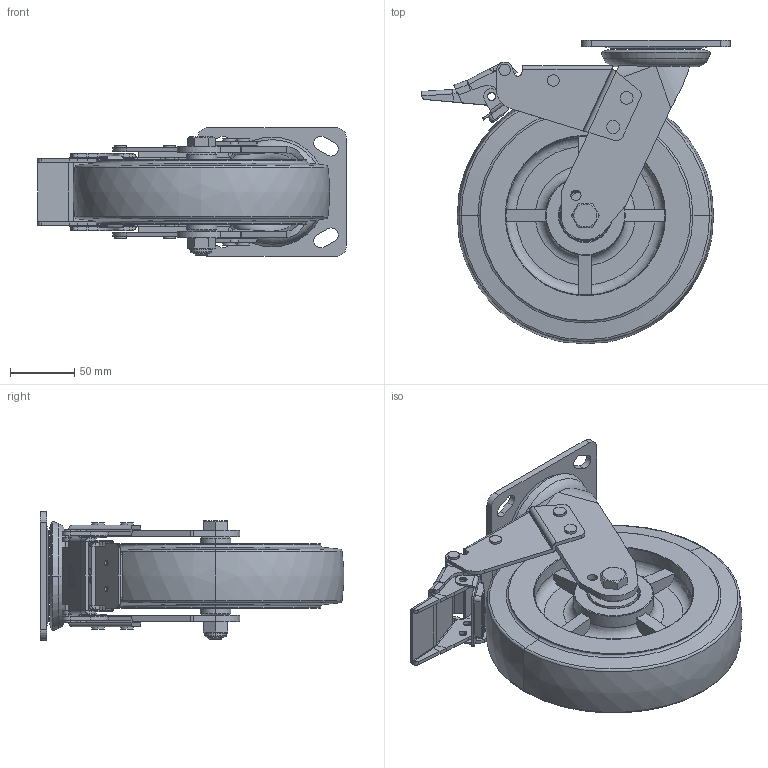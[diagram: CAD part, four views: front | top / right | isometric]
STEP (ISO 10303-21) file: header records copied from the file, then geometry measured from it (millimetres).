
FILE_DESCRIPTION((''),'2;1');
FILE_NAME('S75728L_ASM','2026-07-29T',('Lenovo'),(''),'PRO/ENGINEER BY PARAMETRIC TECHNOLOGY CORPORATION, 2010280','PRO/ENGINEER BY PARAMETRIC TECHNOLOGY CORPORATION, 2010280','');
FILE_SCHEMA(('CONFIG_CONTROL_DESIGN'));
Length unit declared in the file: millimetre
Products named in the file (16): S7508-355; S7570-201; S7500-211; 738-986; 6203; 700-67; 700-54; 738-86_ASM; 700-33; 700-34; C7418-525; 700-142; 700-141; C7438-401; 700-614; S75728L_ASM
Assembly tree (17 placements, depth 3):
  S75728L_ASM
    S7508-355
    S7570-201
    S7500-211
    738-86_ASM
      738-986
      6203  x2
      700-67  x2
      700-54
    700-33
    700-34
    C7418-525
    700-142
    700-141
    C7438-401
    700-614
Bounding box: 240.67 x 236.34 x 100 mm (x, y, z)
Volume: 1401965.6 mm3; surface area: 285322.8 mm2
Topology: 43 solids, 43 shells, 956 faces, 2377 edges, 1448 vertices
Faces by surface type: plane 445, cylinder 279, torus 98, cone 48, sphere 48, bspline 38
Entity records: 28560 total; most frequent: CARTESIAN_POINT 7065, DIRECTION 4471, ORIENTED_EDGE 4346, EDGE_CURVE 2173, AXIS2_PLACEMENT_3D 1607, VERTEX_POINT 1374, VECTOR 1257, LINE 1257
